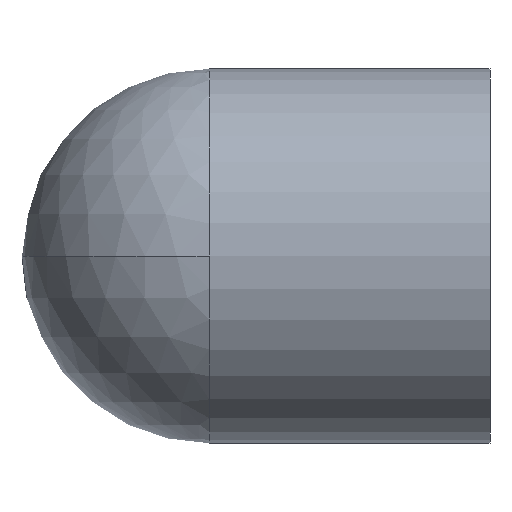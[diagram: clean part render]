
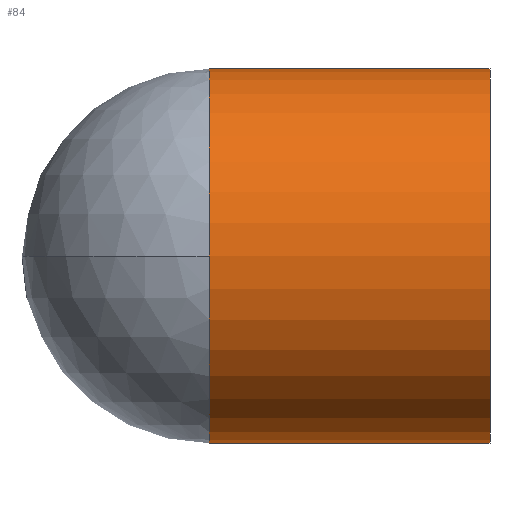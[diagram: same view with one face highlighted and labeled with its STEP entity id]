
A CAD part, left-side view. The second image highlights one B-rep face of the part: STEP entity #84.
In plain terms, the highlighted cylindrical face has radius 25.4 mm (diameter 50.8 mm), a partial arc.
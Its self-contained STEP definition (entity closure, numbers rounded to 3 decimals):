
#9 = LINE ( 'NONE', #42, #213 ) ;
#12 = CARTESIAN_POINT ( 'NONE',  ( -25.4, 38.1, 0. ) ) ;
#28 = EDGE_CURVE ( 'NONE', #189, #210, #247, .T. ) ;
#31 = EDGE_CURVE ( 'NONE', #289, #255, #9, .T. ) ;
#32 = CIRCLE ( 'NONE', #127, 25.4 ) ;
#34 = EDGE_LOOP ( 'NONE', ( #38, #312, #305, #269, #230 ) ) ;
#38 = ORIENTED_EDGE ( 'NONE', *, *, #31, .F. ) ;
#40 = CARTESIAN_POINT ( 'NONE',  ( 0., 38.1, 0. ) ) ;
#41 = AXIS2_PLACEMENT_3D ( 'NONE', #295, #117, #79 ) ;
#42 = CARTESIAN_POINT ( 'NONE',  ( 0., 38.1, 25.4 ) ) ;
#43 = DIRECTION ( 'NONE',  ( 0., 0., -1. ) ) ;
#46 = CARTESIAN_POINT ( 'NONE',  ( 0., 0., 25.4 ) ) ;
#48 = DIRECTION ( 'NONE',  ( 0., -1., 0. ) ) ;
#66 = VECTOR ( 'NONE', #193, 1000. ) ;
#71 = CARTESIAN_POINT ( 'NONE',  ( 0., 38.1, -25.4 ) ) ;
#79 = DIRECTION ( 'NONE',  ( 0., 0., -1. ) ) ;
#82 = CARTESIAN_POINT ( 'NONE',  ( 0., 38.1, 25.4 ) ) ;
#83 = CIRCLE ( 'NONE', #101, 25.4 ) ;
#84 = ADVANCED_FACE ( 'NONE', ( #90 ), #150, .T. ) ;
#90 = FACE_OUTER_BOUND ( 'NONE', #34, .T. ) ;
#101 = AXIS2_PLACEMENT_3D ( 'NONE', #40, #48, #43 ) ;
#117 = DIRECTION ( 'NONE',  ( 0., -1., 0. ) ) ;
#118 = AXIS2_PLACEMENT_3D ( 'NONE', #226, #191, #135 ) ;
#127 = AXIS2_PLACEMENT_3D ( 'NONE', #288, #290, #238 ) ;
#135 = DIRECTION ( 'NONE',  ( 0., 0., -1. ) ) ;
#146 = CARTESIAN_POINT ( 'NONE',  ( 0., 0., -25.4 ) ) ;
#148 = EDGE_CURVE ( 'NONE', #255, #210, #32, .T. ) ;
#150 = CYLINDRICAL_SURFACE ( 'NONE', #41, 25.4 ) ;
#173 = EDGE_CURVE ( 'NONE', #237, #189, #276, .T. ) ;
#189 = VERTEX_POINT ( 'NONE', #284 ) ;
#191 = DIRECTION ( 'NONE',  ( 0., -1., 0. ) ) ;
#193 = DIRECTION ( 'NONE',  ( 0., -1., 0. ) ) ;
#210 = VERTEX_POINT ( 'NONE', #146 ) ;
#213 = VECTOR ( 'NONE', #271, 1000. ) ;
#216 = EDGE_CURVE ( 'NONE', #289, #237, #83, .T. ) ;
#226 = CARTESIAN_POINT ( 'NONE',  ( 0., 38.1, 0. ) ) ;
#230 = ORIENTED_EDGE ( 'NONE', *, *, #148, .F. ) ;
#237 = VERTEX_POINT ( 'NONE', #12 ) ;
#238 = DIRECTION ( 'NONE',  ( 0., 0., -1. ) ) ;
#247 = LINE ( 'NONE', #71, #66 ) ;
#255 = VERTEX_POINT ( 'NONE', #46 ) ;
#269 = ORIENTED_EDGE ( 'NONE', *, *, #28, .T. ) ;
#271 = DIRECTION ( 'NONE',  ( 0., -1., 0. ) ) ;
#276 = CIRCLE ( 'NONE', #118, 25.4 ) ;
#284 = CARTESIAN_POINT ( 'NONE',  ( 0., 38.1, -25.4 ) ) ;
#288 = CARTESIAN_POINT ( 'NONE',  ( 0., 0., 0. ) ) ;
#289 = VERTEX_POINT ( 'NONE', #82 ) ;
#290 = DIRECTION ( 'NONE',  ( 0., -1., 0. ) ) ;
#295 = CARTESIAN_POINT ( 'NONE',  ( 0., 38.1, 0. ) ) ;
#305 = ORIENTED_EDGE ( 'NONE', *, *, #173, .T. ) ;
#312 = ORIENTED_EDGE ( 'NONE', *, *, #216, .T. ) ;
